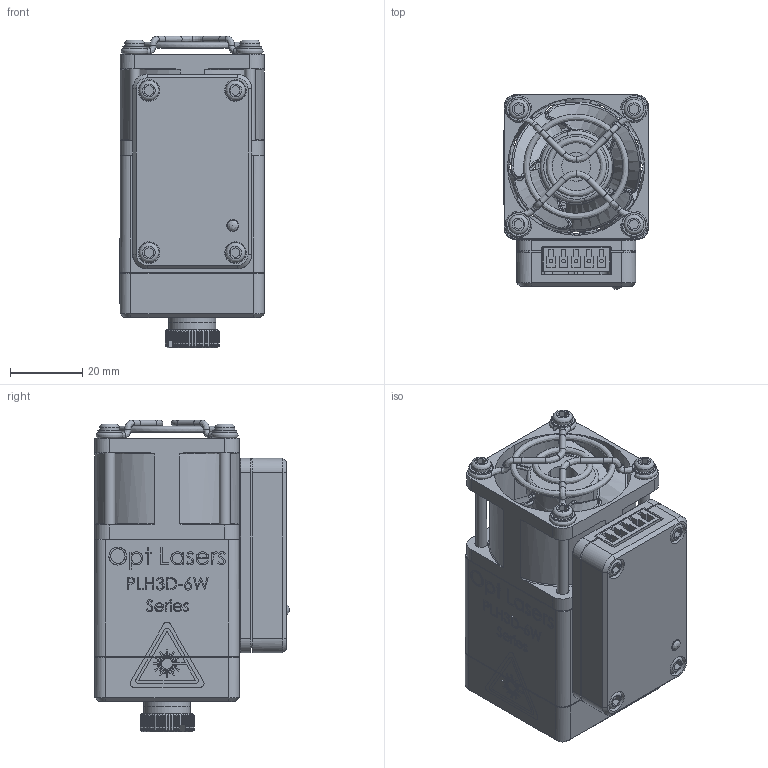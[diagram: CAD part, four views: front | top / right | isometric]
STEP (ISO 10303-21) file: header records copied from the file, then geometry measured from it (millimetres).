
FILE_DESCRIPTION( ('This file contains a STEP AP42 implementation' ,'as created by ZW3D STEP Interface translator.') ,'2;1' );
FILE_NAME( 'PLH3D-6W-XF.stp' ,'201123. 81554', (''), ('ZWCAD Software Co.'), 'Version 1.0', 'ZW3D to STEP translator', '' );
FILE_SCHEMA(('AUTOMOTIVE_DESIGN'));
Length unit declared in the file: millimetre
Products named in the file (22): 0; PLH3D-6W-XF1; Diode TO-5; M3x20 walcowe; Fan 40x40x28 housing; User Library-Fan 40x40x28 Sanyo Denki_Fan 40x40x28 Blade Sanyo Denki; Os³onka 40x40; M3 d³ugie; Podk³adka Fi3_2; Lensbarell; Lensfi6mm; Trojkat tekst; Prostokat tekst; Trojkat zolty; Naklejka prost zolta; Korpus grawer; Magnes 3x6; driver testowy; ARK; PLH3D-6W_Driver_Cover_LONG_Cover_alum; FIX-LEM-144; M3 oczkowe
Assembly tree (35 placements, depth 2):
  0
  PLH3D-6W-XF1
    Diode TO-5
    M3x20 walcowe  x4
    Fan 40x40x28 housing
    User Library-Fan 40x40x28 Sanyo Denki_Fan 40x40x28 Blade Sanyo Denki
    Os³onka 40x40
    M3 d³ugie  x4
    Podk³adka Fi3_2  x4
    Lensbarell
    Lensfi6mm
    Trojkat tekst
    Prostokat tekst
    Trojkat zolty
    Naklejka prost zolta
    Korpus grawer
    Magnes 3x6  x4
    driver testowy
    ARK
    PLH3D-6W_Driver_Cover_LONG_Cover_alum
    FIX-LEM-144
    M3 oczkowe  x4
Bounding box: 40.1 x 54.05 x 86.53 mm (x, y, z)
Volume: 72933.9 mm3; surface area: 68170.3 mm2
Topology: 205 solids, 209 shells, 3731 faces, 9608 edges, 6624 vertices
Faces by surface type: bspline 3731
Entity records: 124946 total; most frequent: CARTESIAN_POINT 65055, ORIENTED_EDGE 18156, EDGE_CURVE 9082, B_SPLINE_CURVE_WITH_KNOTS 7494, VERTEX_POINT 5949, EDGE_LOOP 3953, FACE_OUTER_BOUND 3578, ADVANCED_FACE 3578
